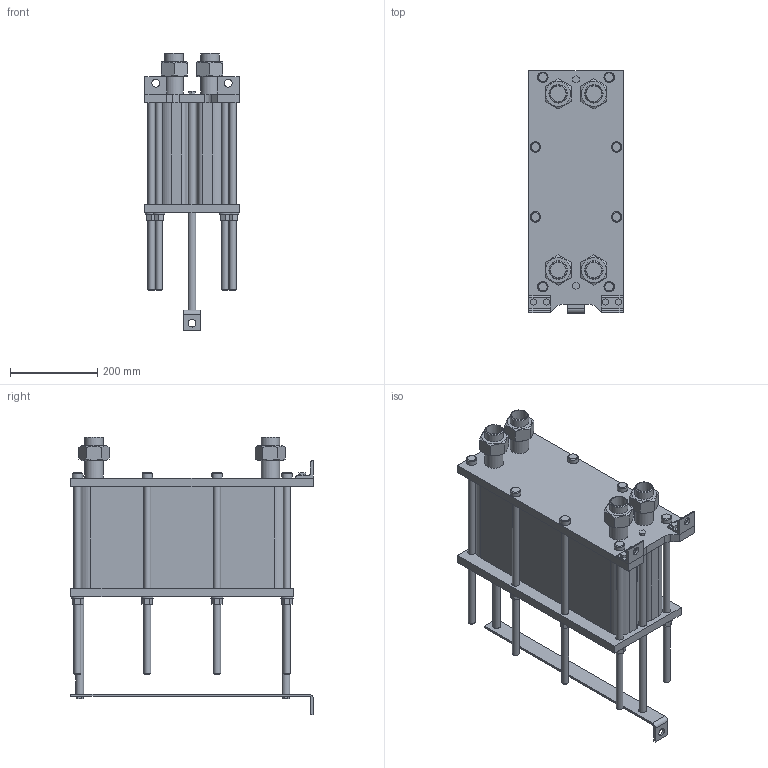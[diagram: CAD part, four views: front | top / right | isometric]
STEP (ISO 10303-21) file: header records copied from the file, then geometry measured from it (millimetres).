
FILE_DESCRIPTION(/* description */ (''),/* implementation_level */ '2;1');
FILE_NAME(/* name */ 'C:\Users\zhuro\Desktop\ENCO\TO\ЭН-004\ЭН-0,5-004-75-1.stp',/* time_stamp */ '2022-06-06T10:49:39+03:00',/* author */ ('zhuro'),/* organization */ (''),/* preprocessor_version */ 'ST-DEVELOPER v18.1',/* originating_system */ 'Autodesk Inventor 2022',/* authorisation */ '');
FILE_SCHEMA (('AUTOMOTIVE_DESIGN { 1 0 10303 214 3 1 1 }'));
Length unit declared in the file: millimetre
Products named in the file (1): ЭН-0,5-004-75-1
Bounding box: 216 x 555 x 637 mm (x, y, z)
Volume: 23103376.8 mm3; surface area: 1462240.4 mm2
Topology: 40 solids, 40 shells, 403 faces, 865 edges, 574 vertices
Faces by surface type: plane 272, cylinder 103, cone 28
Full cylindrical faces by diameter (mm): 10 x4, 16 x16, 18 x29, 20 x2, 24 x8, 28 x8, 36.3 x5, 42.3 x9
Entity records: 11137 total; most frequent: CARTESIAN_POINT 1939, DIRECTION 1879, ORIENTED_EDGE 1730, EDGE_CURVE 865, AXIS2_PLACEMENT_3D 658, VERTEX_POINT 574, LINE 563, VECTOR 563
